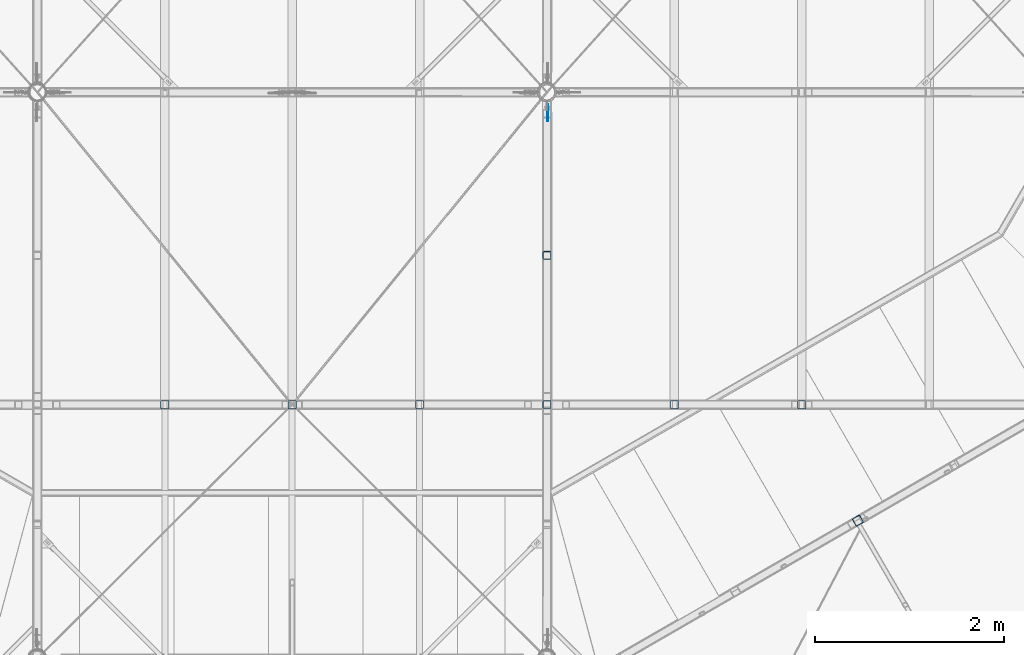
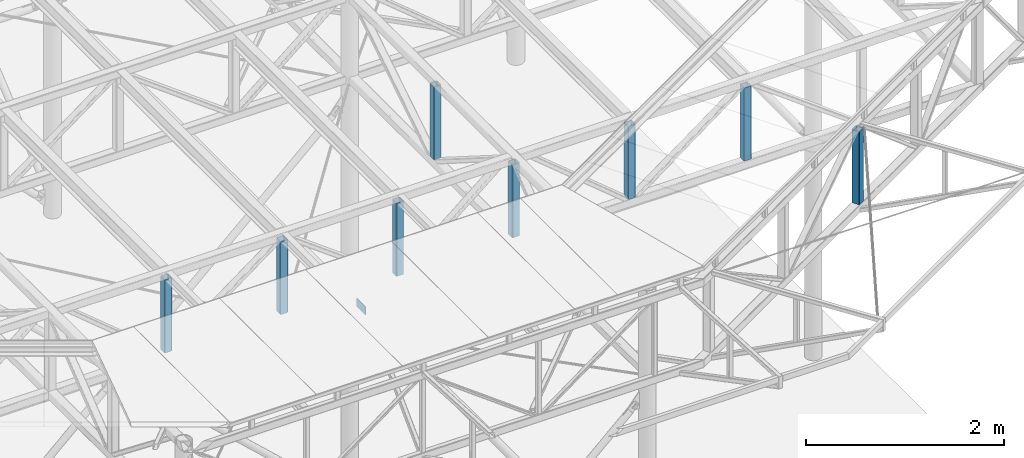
# One storey, part 78 of 132: 9 discrete accessories, 4 elements without a shape of their own.
"""IFC2X3 building model written with IfcOpenShell, lengths in millimetres."""

from ifc_helpers import new_model, si_unit, frame, origin_with_axes, origin_2d_with_axis, place, context, subcontext, project, spatial, polyline, hollow_rectangle, outline, extrude, clip, halfspace, material, type_object, element, aggregate, save


model = new_model("IFC2X3")

# Units and contexts
model_context = context("Model", 3, precision=1e-05, world=origin_with_axes())
body_context = subcontext(model_context, "Body", "Model", "MODEL_VIEW")
ifc_project = project(units=[si_unit("LENGTHUNIT", "METRE", prefix="MILLI"), si_unit("AREAUNIT", "SQUARE_METRE"), si_unit("VOLUMEUNIT", "CUBIC_METRE"), si_unit("MASSUNIT", "GRAM", prefix="KILO"), si_unit("TIMEUNIT", "SECOND"), si_unit("PLANEANGLEUNIT", "RADIAN"), si_unit("SOLIDANGLEUNIT", "STERADIAN"), si_unit("THERMODYNAMICTEMPERATUREUNIT", "DEGREE_CELSIUS"), si_unit("LUMINOUSINTENSITYUNIT", "LUMEN")], contexts=[model_context])

# Site, building, storey
site_placement = place(None, origin_with_axes())
site = spatial("IfcSite", under=ifc_project, at=site_placement, Name="Budowa", CompositionType="ELEMENT")
building_placement = place(site_placement, origin_with_axes())
building = spatial("IfcBuilding", under=site, at=building_placement, Name="Undefined", CompositionType="ELEMENT")
storey_placement = place(building_placement, origin_with_axes())
storey = spatial("IfcBuildingStorey", under=building, at=storey_placement, Name="Undefined", CompositionType="ELEMENT", Elevation=0.0)

# Assembly, discrete accessory
assembly_1_placement = place(storey_placement, origin_with_axes())
assembly_1 = element("IfcElementAssembly", 1, at=assembly_1_placement, inside=storey, Name="Steel Assembly", AssemblyPlace="NOTDEFINED", PredefinedType="RIGID_FRAME")
ifc_material = material(Name="STEEL/S235")
discrete_accessory_type_1 = type_object("IfcDiscreteAccessoryType", Name="BLACHA")
discrete_accessory_1_placement = place(assembly_1_placement, frame((14832.9999972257, 5872.09209471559, 10116.0003779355), z_axis=(-1.0, 0.0, 0.0), x_axis=(0.0, -1.0, 0.0)))
discrete_accessory_1 = element("IfcDiscreteAccessory", 2, at=discrete_accessory_1_placement, type_object=discrete_accessory_type_1, material=ifc_material, Name="BLACHA", ObjectType="BL8*100", context=body_context, shape_type="SweptSolid", body=[
    extrude(outline(polyline([(180.0, -50.0), (0.0, -50.0), (0.0, 50.0), (180.0, 50.0), (180.0, -50.0)])), frame((0.0, 0.0, -4.0), z_axis=(0.0, 0.0, 1.0), x_axis=(1.0, 0.0, 0.0)), (0.0, 0.0, 1.0), 8.0),
])
aggregate(assembly_1, [discrete_accessory_1])

assembly_2_placement = place(storey_placement, origin_with_axes())
assembly_2 = element("IfcElementAssembly", 3, at=assembly_2_placement, inside=storey, Name="Steel Assembly", AssemblyPlace="NOTDEFINED", PredefinedType="RIGID_FRAME")
discrete_accessory_type_2 = type_object("IfcDiscreteAccessoryType", Name="BEAM")
discrete_accessory_2_placement = place(assembly_2_placement, frame((18120.1928179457, 1460.71677769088, 12880.0), z_axis=(0.0, 0.0, 1.0), x_axis=(0.499969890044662, -0.866042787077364, 0.0)))
discrete_accessory_2 = element("IfcDiscreteAccessory", 4, at=discrete_accessory_2_placement, type_object=discrete_accessory_type_2, material=ifc_material, Name="BEAM", ObjectType="SHS90*4", context=body_context, shape_type="Clipping", body=[
    clip(clip(extrude(hollow_rectangle(XDim=90.0, YDim=90.0, WallThickness=4.0, InnerFilletRadius=4.0, OuterFilletRadius=8.0, at=origin_2d_with_axis()), frame((0.0, 0.0, 900.0), z_axis=(0.0, 0.0, -1.0), x_axis=(0.0, 1.0, 0.0)), (0.0, 0.0, 1.0), 900.0), halfspace(frame((1000.0, 0.0, 900.0), z_axis=(0.0, 0.0, -1.0), x_axis=(0.0, 1.0, 0.0)), True)), halfspace(frame((1000.0, 0.0, 0.0), z_axis=(0.0, 0.0, 1.0), x_axis=(0.0, -1.0, 0.0)), True)),
])

# Assembly, discrete accessories
assembly_3_placement = place(storey_placement, origin_with_axes())
assembly_3 = element("IfcElementAssembly", 5, at=assembly_3_placement, inside=storey, Name="Steel Assembly", AssemblyPlace="NOTDEFINED", PredefinedType="RIGID_FRAME")
discrete_accessory_3_placement = place(assembly_3_placement, frame((16174.9999999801, 2690.00000004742, 13780.0), z_axis=(0.0, -1.0, 0.0), x_axis=(0.0, 0.0, -1.0)))
discrete_accessory_3 = element("IfcDiscreteAccessory", 6, at=discrete_accessory_3_placement, type_object=discrete_accessory_type_2, material=ifc_material, Name="BEAM", ObjectType="SHS90*6", context=body_context, shape_type="Clipping", body=[
    clip(clip(extrude(hollow_rectangle(XDim=90.0, YDim=90.0, WallThickness=6.0, InnerFilletRadius=6.0, OuterFilletRadius=12.0, at=origin_2d_with_axis()), frame((900.0, 0.0, 0.0), z_axis=(-1.0, 0.0, 0.0), x_axis=(0.0, -1.0, 0.0)), (0.0, 0.0, 1.0), 900.0), halfspace(frame((900.0, 0.0, 1000.0), z_axis=(-1.0, 0.0, 0.0), x_axis=(0.0, -1.0, 0.0)), True)), halfspace(frame((0.0, 0.0, 1000.0), z_axis=(1.0, 0.0, 0.0), x_axis=(0.0, 1.0, 0.0)), True)),
])
discrete_accessory_4_placement = place(assembly_3_placement, frame((17524.9999999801, 2690.00000004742, 13780.0), z_axis=(0.0, -1.0, 0.0), x_axis=(0.0, 0.0, -1.0)))
discrete_accessory_4 = element("IfcDiscreteAccessory", 7, at=discrete_accessory_4_placement, type_object=discrete_accessory_type_2, material=ifc_material, Name="BEAM", ObjectType="SHS90*6", context=body_context, shape_type="Clipping", body=[
    clip(clip(extrude(hollow_rectangle(XDim=90.0, YDim=90.0, WallThickness=6.0, InnerFilletRadius=6.0, OuterFilletRadius=12.0, at=origin_2d_with_axis()), frame((900.0, 0.0, 0.0), z_axis=(-1.0, 0.0, 0.0), x_axis=(0.0, -1.0, 0.0)), (0.0, 0.0, 1.0), 900.0), halfspace(frame((900.0, 0.0, 1000.0), z_axis=(-1.0, 0.0, 0.0), x_axis=(0.0, -1.0, 0.0)), True)), halfspace(frame((0.0, 0.0, 1000.0), z_axis=(1.0, 0.0, 0.0), x_axis=(0.0, 1.0, 0.0)), True)),
])
aggregate(assembly_3, [discrete_accessory_3, discrete_accessory_4])

# Discrete accessory
discrete_accessory_5_placement = place(assembly_2_placement, frame((14824.999999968, 4271.00000004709, 12880.0), z_axis=(0.0, 0.0, 1.0), x_axis=(-1.0, 0.0, 0.0)))
discrete_accessory_5 = element("IfcDiscreteAccessory", 8, at=discrete_accessory_5_placement, type_object=discrete_accessory_type_2, material=ifc_material, Name="BEAM", ObjectType="SHS90*6", context=body_context, shape_type="Clipping", body=[
    clip(clip(extrude(hollow_rectangle(XDim=90.0, YDim=90.0, WallThickness=6.0, InnerFilletRadius=6.0, OuterFilletRadius=12.0, at=origin_2d_with_axis()), frame((0.0, 0.0, 900.0), z_axis=(0.0, 0.0, -1.0), x_axis=(0.0, 1.0, 0.0)), (0.0, 0.0, 1.0), 900.0), halfspace(frame((1000.0, 0.0, 900.0), z_axis=(0.0, 0.0, -1.0), x_axis=(0.0, 1.0, 0.0)), True)), halfspace(frame((1000.0, 0.0, 0.0), z_axis=(0.0, 0.0, 1.0), x_axis=(0.0, -1.0, 0.0)), True)),
])

# Assembly, discrete accessories
assembly_4_placement = place(storey_placement, origin_with_axes())
assembly_4 = element("IfcElementAssembly", 9, at=assembly_4_placement, inside=storey, Name="Steel Assembly", AssemblyPlace="NOTDEFINED", PredefinedType="RIGID_FRAME")
discrete_accessory_6_placement = place(assembly_4_placement, frame((13474.9999999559, 2690.00000004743, 13780.0), z_axis=(0.0, -1.0, 0.0), x_axis=(0.0, 0.0, -1.0)))
discrete_accessory_6 = element("IfcDiscreteAccessory", 10, at=discrete_accessory_6_placement, type_object=discrete_accessory_type_2, material=ifc_material, Name="BEAM", ObjectType="SHS90*6", context=body_context, shape_type="Clipping", body=[
    clip(clip(extrude(hollow_rectangle(XDim=90.0, YDim=90.0, WallThickness=6.0, InnerFilletRadius=6.0, OuterFilletRadius=12.0, at=origin_2d_with_axis()), frame((900.0, 0.0, 0.0), z_axis=(-1.0, 0.0, 0.0), x_axis=(0.0, -1.0, 0.0)), (0.0, 0.0, 1.0), 900.0), halfspace(frame((900.0, 0.0, 1000.0), z_axis=(-1.0, 0.0, 0.0), x_axis=(0.0, -1.0, 0.0)), True)), halfspace(frame((0.0, 0.0, 1000.0), z_axis=(1.0, 0.0, 0.0), x_axis=(0.0, 1.0, 0.0)), True)),
])
discrete_accessory_7_placement = place(assembly_4_placement, frame((10774.9999999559, 2690.00000004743, 13780.0), z_axis=(0.0, -1.0, 0.0), x_axis=(0.0, 0.0, -1.0)))
discrete_accessory_7 = element("IfcDiscreteAccessory", 11, at=discrete_accessory_7_placement, type_object=discrete_accessory_type_2, material=ifc_material, Name="BEAM", ObjectType="SHS90*6", context=body_context, shape_type="Clipping", body=[
    clip(clip(extrude(hollow_rectangle(XDim=90.0, YDim=90.0, WallThickness=6.0, InnerFilletRadius=6.0, OuterFilletRadius=12.0, at=origin_2d_with_axis()), frame((900.0, 0.0, 0.0), z_axis=(-1.0, 0.0, 0.0), x_axis=(0.0, -1.0, 0.0)), (0.0, 0.0, 1.0), 900.0), halfspace(frame((900.0, 0.0, 1000.0), z_axis=(-1.0, 0.0, 0.0), x_axis=(0.0, -1.0, 0.0)), True)), halfspace(frame((0.0, 0.0, 1000.0), z_axis=(1.0, 0.0, 0.0), x_axis=(0.0, 1.0, 0.0)), True)),
])
discrete_accessory_8_placement = place(assembly_4_placement, frame((12124.9999999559, 2690.00000004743, 13780.0), z_axis=(0.0, -1.0, 0.0), x_axis=(0.0, 0.0, -1.0)))
discrete_accessory_8 = element("IfcDiscreteAccessory", 12, at=discrete_accessory_8_placement, type_object=discrete_accessory_type_2, material=ifc_material, Name="BEAM", ObjectType="SHS90*6", context=body_context, shape_type="Clipping", body=[
    clip(clip(extrude(hollow_rectangle(XDim=90.0, YDim=90.0, WallThickness=6.0, InnerFilletRadius=6.0, OuterFilletRadius=12.0, at=origin_2d_with_axis()), frame((900.0, 0.0, 0.0), z_axis=(-1.0, 0.0, 0.0), x_axis=(0.0, -1.0, 0.0)), (0.0, 0.0, 1.0), 900.0), halfspace(frame((900.0, 0.0, 1000.0), z_axis=(-1.0, 0.0, 0.0), x_axis=(0.0, -1.0, 0.0)), True)), halfspace(frame((0.0, 0.0, 1000.0), z_axis=(1.0, 0.0, 0.0), x_axis=(0.0, 1.0, 0.0)), True)),
])
aggregate(assembly_4, [discrete_accessory_6, discrete_accessory_7, discrete_accessory_8])

# Discrete accessory
discrete_accessory_9_placement = place(assembly_2_placement, frame((14824.999999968, 2690.00000004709, 12880.0), z_axis=(0.0, 0.0, 1.0), x_axis=(-1.0, 0.0, 0.0)))
discrete_accessory_9 = element("IfcDiscreteAccessory", 13, at=discrete_accessory_9_placement, type_object=discrete_accessory_type_2, material=ifc_material, Name="BEAM", ObjectType="SHS90*6", context=body_context, shape_type="Clipping", body=[
    clip(clip(extrude(hollow_rectangle(XDim=90.0, YDim=90.0, WallThickness=6.0, InnerFilletRadius=6.0, OuterFilletRadius=12.0, at=origin_2d_with_axis()), frame((0.0, 0.0, 900.0), z_axis=(0.0, 0.0, -1.0), x_axis=(0.0, 1.0, 0.0)), (0.0, 0.0, 1.0), 900.0), halfspace(frame((1000.0, 0.0, 900.0), z_axis=(0.0, 0.0, -1.0), x_axis=(0.0, 1.0, 0.0)), True)), halfspace(frame((1000.0, 0.0, 0.0), z_axis=(0.0, 0.0, 1.0), x_axis=(0.0, -1.0, 0.0)), True)),
])

aggregate(assembly_2, [discrete_accessory_2, discrete_accessory_5, discrete_accessory_9])

save(model, "model.ifc")
